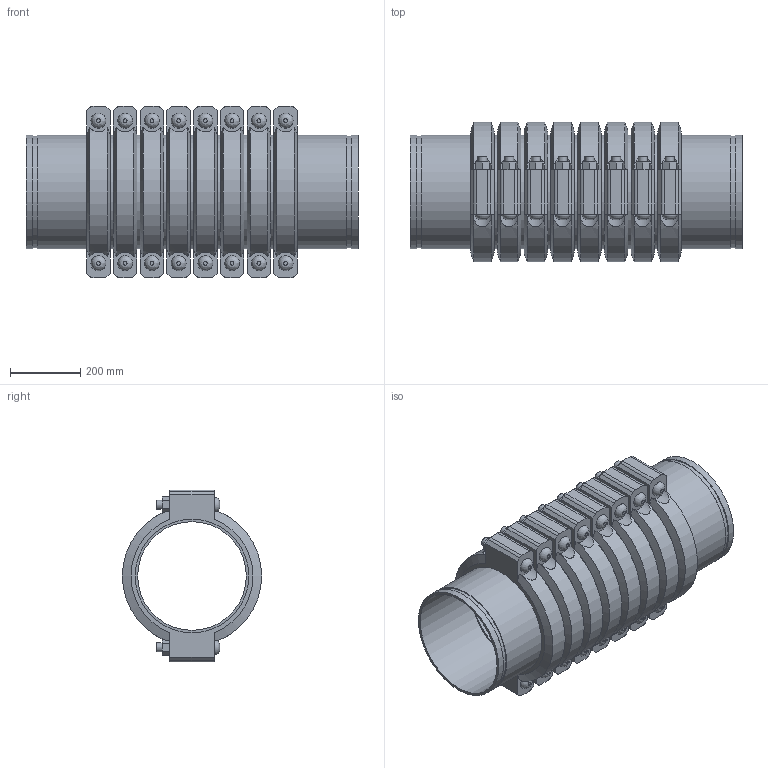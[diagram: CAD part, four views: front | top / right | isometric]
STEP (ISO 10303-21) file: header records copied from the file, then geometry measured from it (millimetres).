
FILE_DESCRIPTION(/* description */ ('VIC SS EXPANSION JOINT 8 COUPLINGS EXPANDED STYLE 155P (OGS) (POTABLE WATER) ','CAx-IF Rec.Pracs.---Representation and Presentation of Product Manufacturing Information (PMI)---4.0---2014-10-13'),/* implementation_level */ '2;1');
FILE_NAME(/* name */ 'C:\Users\kkamble\AppData\Roaming\Autodesk\ApplicationPlugins\Victaulic.Temp\A286\Victaulic_SS_Expansion Joint_Expanded_8 Couplings_Style 155P (OGS)-Potable Water_8 Coup_Expd_12 (300).stp',/* time_stamp */ '2021-07-16T16:56:56+05:00',/* author */ ('kkamble'),/* organization */ ('Victaulic'),/* preprocessor_version */ 'ST-DEVELOPER v17.2',/* originating_system */ 'Autodesk Inventor 2019',/* authorisation */ '');
FILE_SCHEMA (('AP242_MANAGED_MODEL_BASED_3D_ENGINEERING_MIM_LF { 1 0 10303 442 1 1 4 }'));
Length unit declared in the file: inch
Products named in the file (4): 155P-12.0; Nipple-12.0; Nipple-12.0_1; 077-12.0
Assembly tree (17 placements, depth 2):
  155P-12.0
    Nipple-12.0  x2
    Nipple-12.0_1  x7
    077-12.0  x8
Bounding box: 946.15 x 397 x 488.95 mm (x, y, z)
Volume: 33146866.9 mm3; surface area: 4614739.4 mm2
Topology: 17 solids, 33 shells, 596 faces, 1431 edges, 1002 vertices
Faces by surface type: plane 342, cylinder 206, cone 32, bspline 16
Full cylindrical faces by diameter (mm): 25.4 x32, 27.432 x16, 309.677 x9, 314.96 x8, 318.287 x18, 323.85 x43
Entity records: 3110 total; most frequent: CARTESIAN_POINT 667, DIRECTION 489, ORIENTED_EDGE 410, EDGE_CURVE 205, AXIS2_PLACEMENT_3D 200, VERTEX_POINT 146, EDGE_LOOP 111, CIRCLE 96
